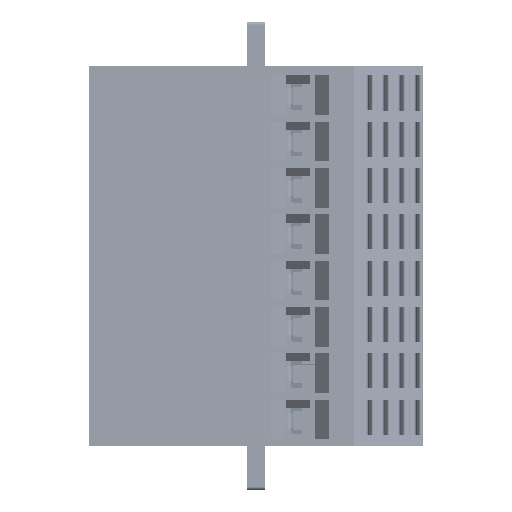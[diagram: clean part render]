
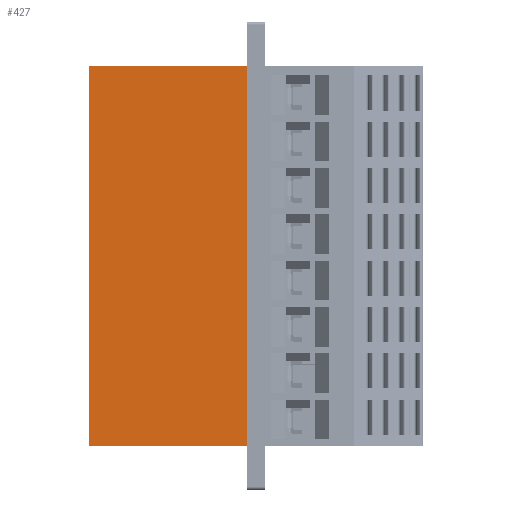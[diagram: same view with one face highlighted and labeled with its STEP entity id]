
A CAD part, top view. The second image highlights one B-rep face of the part: STEP entity #427.
In plain terms, the highlighted planar face has unit normal (0, 0, 1).
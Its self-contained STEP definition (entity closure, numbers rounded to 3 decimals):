
#427=ADVANCED_FACE('',(#116404),#116406,.T.);
#116404=FACE_BOUND('',#116405,.T.);
#116405=EDGE_LOOP('',(#209065,#209066,#209067,#209068));
#116406=PLANE('',#116407);
#116407=AXIS2_PLACEMENT_3D('',#116408,#116409,#116410);
#116408=CARTESIAN_POINT('',(0.,-55.3,9.35));
#116409=DIRECTION('',(0.,0.,1.));
#116410=DIRECTION('',(1.,0.,0.));
#209065=ORIENTED_EDGE('',*,*,#282883,.T.);
#209066=ORIENTED_EDGE('',*,*,#282882,.T.);
#209067=ORIENTED_EDGE('',*,*,#282884,.F.);
#209068=ORIENTED_EDGE('',*,*,#282885,.F.);
#282882=EDGE_CURVE('',#320048,#320050,#320052,.T.);
#282883=EDGE_CURVE('',#320053,#320048,#320054,.T.);
#282884=EDGE_CURVE('',#320055,#320050,#320056,.T.);
#282885=EDGE_CURVE('',#320053,#320055,#320057,.T.);
#320048=VERTEX_POINT('',#382020);
#320050=VERTEX_POINT('',#382024);
#320052=LINE('',#382028,#382029);
#320053=VERTEX_POINT('',#382031);
#320054=LINE('',#382032,#382033);
#320055=VERTEX_POINT('',#382035);
#320056=LINE('',#382036,#382037);
#320057=LINE('',#382039,#382040);
#382020=CARTESIAN_POINT('',(27.,-55.3,9.35));
#382024=CARTESIAN_POINT('',(27.,9.5,9.35));
#382028=CARTESIAN_POINT('',(27.,-55.3,9.35));
#382029=VECTOR('',#382030,1.);
#382030=DIRECTION('',(0.,1.,0.));
#382031=CARTESIAN_POINT('',(0.,-55.3,9.35));
#382032=CARTESIAN_POINT('',(0.,-55.3,9.35));
#382033=VECTOR('',#382034,1.);
#382034=DIRECTION('',(1.,0.,0.));
#382035=CARTESIAN_POINT('',(0.,9.5,9.35));
#382036=CARTESIAN_POINT('',(0.,9.5,9.35));
#382037=VECTOR('',#382038,1.);
#382038=DIRECTION('',(1.,0.,0.));
#382039=CARTESIAN_POINT('',(0.,-55.3,9.35));
#382040=VECTOR('',#382041,1.);
#382041=DIRECTION('',(0.,1.,0.));
